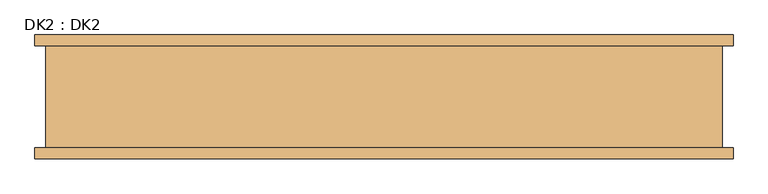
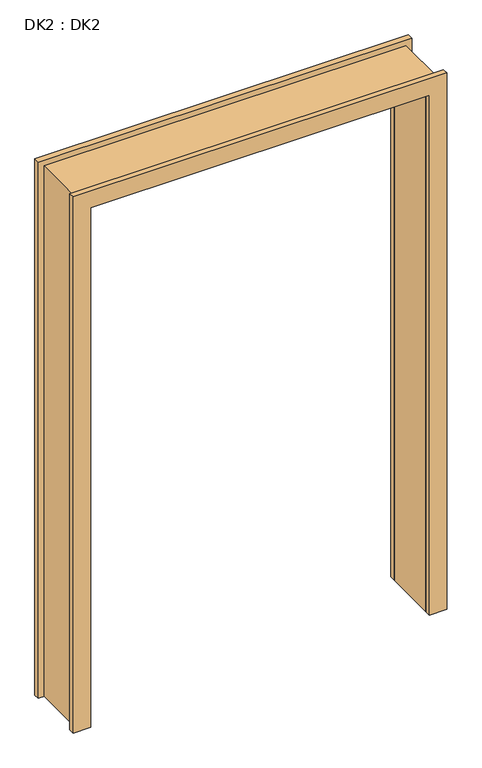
"""IFC4 building model written with IfcOpenShell, lengths in millimetres: door geometry, DK2 : DK2."""

from ifc_helpers import new_model, si_unit, frame, origin, place, context, project, spatial, polyline, outline, extrude, source, transform, mapped, element, save


def dk2_dk2_fd451be2(model_context):
    return source(origin(), model_context, "Body", "SweptSolid", [
        extrude(outline(polyline([(2400.0, -775.0), (0.0, -775.0), (0.0, -725.0), (2350.0, -725.0), (2350.0, 725.0), (0.0, 725.0), (0.0, 775.0), (2400.0, 775.0), (2400.0, -775.0)])), frame((0.0, -117.0, 0.0), z_axis=(0.0, 1.0, 0.0), x_axis=(0.0, 0.0, 1.0)), (0.0, 0.0, 1.0), 234.0),
        extrude(outline(polyline([(2425.0, -800.0), (0.0, -800.0), (0.0, -725.0), (2350.0, -725.0), (2350.0, 725.0), (0.0, 725.0), (0.0, 800.0), (2425.0, 800.0), (2425.0, -800.0)])), frame((0.0, 117.0, 0.0), z_axis=(0.0, 1.0, 0.0), x_axis=(0.0, 0.0, 1.0)), (0.0, 0.0, 1.0), 25.0),
        extrude(outline(polyline([(2425.0, -800.0), (0.0, -800.0), (0.0, -725.0), (2350.0, -725.0), (2350.0, 725.0), (0.0, 725.0), (0.0, 800.0), (2425.0, 800.0), (2425.0, -800.0)])), frame((0.0, -142.0, 0.0), z_axis=(0.0, 1.0, 0.0), x_axis=(0.0, 0.0, 1.0)), (0.0, 0.0, 1.0), 25.0),
    ])


if __name__ == "__main__":
    model = new_model("IFC4")
    model_context = context("Model", 3, world=origin())
    ifc_project = project(units=[si_unit("LENGTHUNIT", "METRE", prefix="MILLI")], contexts=[model_context])
    site = spatial("IfcSite", under=ifc_project)
    building = spatial("IfcBuilding", under=site)
    placement = place(None, origin())
    dk2_dk2_shape = dk2_dk2_fd451be2(model_context)
    element("IfcDoor", 1, ObjectType="DK2 : DK2", at=placement, inside=building, context=model_context, shape_type="MappedRepresentation", body=[
        mapped(dk2_dk2_shape, transform((0.0, 0.0, 0.0), x_axis=(1.0, 0.0, 0.0), y_axis=(0.0, 1.0, 0.0), z_axis=(0.0, 0.0, 1.0))),
    ])
    save(model, "model.ifc")
